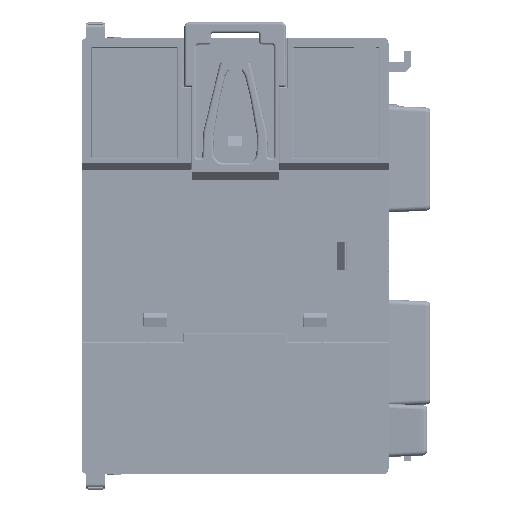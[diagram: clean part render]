
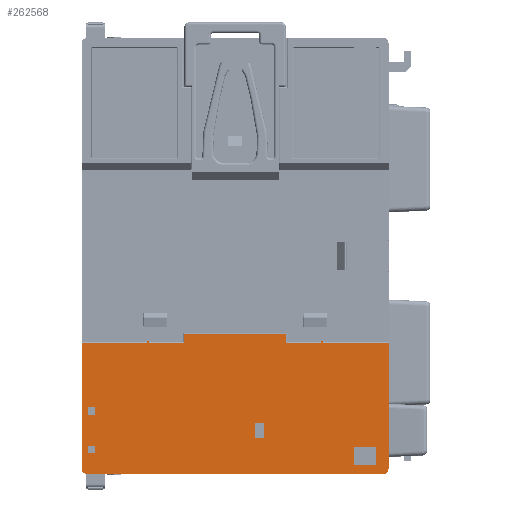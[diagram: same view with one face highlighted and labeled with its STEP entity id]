
A CAD part, front view. The second image highlights one B-rep face of the part: STEP entity #262568.
In plain terms, the highlighted planar face has unit normal (0, -1, 0).
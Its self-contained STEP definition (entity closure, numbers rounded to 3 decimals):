
#55839=DIRECTION('',(0.,0.,-1.));
#55840=VECTOR('',#55839,26.05);
#55841=CARTESIAN_POINT('',(31.65,0.,-17.95));
#55842=LINE('',#55841,#55840);
#55846=DIRECTION('',(-1.,0.,0.));
#55847=VECTOR('',#55846,61.3);
#55848=CARTESIAN_POINT('',(30.65,0.,-45.));
#55849=LINE('',#55848,#55847);
#55853=DIRECTION('',(0.,0.,1.));
#55854=VECTOR('',#55853,26.05);
#55855=CARTESIAN_POINT('',(-31.65,0.,-44.));
#55856=LINE('',#55855,#55854);
#55902=DIRECTION('',(0.,0.,1.));
#55903=VECTOR('',#55902,1.5);
#55904=CARTESIAN_POINT('',(-30.35,0.,-40.75));
#55905=LINE('',#55904,#55903);
#55909=DIRECTION('',(-1.,0.,0.));
#55910=VECTOR('',#55909,1.5);
#55911=CARTESIAN_POINT('',(-28.85,0.,-40.75));
#55912=LINE('',#55911,#55910);
#55916=DIRECTION('',(0.,0.,-1.));
#55917=VECTOR('',#55916,1.5);
#55918=CARTESIAN_POINT('',(-28.85,0.,-39.25));
#55919=LINE('',#55918,#55917);
#55923=DIRECTION('',(1.,0.,0.));
#55924=VECTOR('',#55923,1.5);
#55925=CARTESIAN_POINT('',(-30.35,0.,-39.25));
#55926=LINE('',#55925,#55924);
#55930=DIRECTION('',(0.,0.,1.));
#55931=VECTOR('',#55930,1.5);
#55932=CARTESIAN_POINT('',(-30.35,0.,-32.75));
#55933=LINE('',#55932,#55931);
#55937=DIRECTION('',(-1.,0.,0.));
#55938=VECTOR('',#55937,1.5);
#55939=CARTESIAN_POINT('',(-28.85,0.,-32.75));
#55940=LINE('',#55939,#55938);
#55944=DIRECTION('',(0.,0.,-1.));
#55945=VECTOR('',#55944,1.5);
#55946=CARTESIAN_POINT('',(-28.85,0.,-31.25));
#55947=LINE('',#55946,#55945);
#55951=DIRECTION('',(1.,0.,0.));
#55952=VECTOR('',#55951,1.5);
#55953=CARTESIAN_POINT('',(-30.35,0.,-31.25));
#55954=LINE('',#55953,#55952);
#55958=DIRECTION('',(0.,0.,1.));
#55959=VECTOR('',#55958,3.7);
#55960=CARTESIAN_POINT('',(29.1,0.,-43.2));
#55961=LINE('',#55960,#55959);
#55965=DIRECTION('',(-1.,0.,0.));
#55966=VECTOR('',#55965,4.6);
#55967=CARTESIAN_POINT('',(29.1,0.,-39.5));
#55968=LINE('',#55967,#55966);
#55972=DIRECTION('',(0.,0.,-1.));
#55973=VECTOR('',#55972,3.7);
#55974=CARTESIAN_POINT('',(24.5,0.,-39.5));
#55975=LINE('',#55974,#55973);
#55979=DIRECTION('',(1.,0.,0.));
#55980=VECTOR('',#55979,4.6);
#55981=CARTESIAN_POINT('',(24.5,0.,-43.2));
#55982=LINE('',#55981,#55980);
#55993=DIRECTION('',(0.,0.,1.));
#55994=VECTOR('',#55993,3.);
#55995=CARTESIAN_POINT('',(4.,0.,-37.5));
#55996=LINE('',#55995,#55994);
#56000=DIRECTION('',(-1.,0.,0.));
#56001=VECTOR('',#56000,2.);
#56002=CARTESIAN_POINT('',(6.,0.,-37.5));
#56003=LINE('',#56002,#56001);
#56007=DIRECTION('',(0.,0.,-1.));
#56008=VECTOR('',#56007,3.);
#56009=CARTESIAN_POINT('',(6.,0.,-34.5));
#56010=LINE('',#56009,#56008);
#56014=DIRECTION('',(1.,0.,0.));
#56015=VECTOR('',#56014,2.);
#56016=CARTESIAN_POINT('',(4.,0.,-34.5));
#56017=LINE('',#56016,#56015);
#56021=DIRECTION('',(-1.,0.,0.));
#56022=VECTOR('',#56021,7.3);
#56023=CARTESIAN_POINT('',(17.85,0.,-17.95));
#56024=LINE('',#56023,#56022);
#56046=DIRECTION('',(0.,0.,1.));
#56047=VECTOR('',#56046,1.95);
#56048=CARTESIAN_POINT('',(10.55,0.,-17.95));
#56049=LINE('',#56048,#56047);
#56078=DIRECTION('',(-1.,0.,0.));
#56079=VECTOR('',#56078,21.1);
#56080=CARTESIAN_POINT('',(10.55,0.,-16.));
#56081=LINE('',#56080,#56079);
#56108=DIRECTION('',(0.,0.,-1.));
#56109=VECTOR('',#56108,1.95);
#56110=CARTESIAN_POINT('',(-10.55,0.,-16.));
#56111=LINE('',#56110,#56109);
#56147=DIRECTION('',(-1.,0.,0.));
#56148=VECTOR('',#56147,7.3);
#56149=CARTESIAN_POINT('',(-10.55,0.,-17.95));
#56150=LINE('',#56149,#56148);
#56246=DIRECTION('',(-1.,0.,0.));
#56247=VECTOR('',#56246,13.5);
#56248=CARTESIAN_POINT('',(-18.15,0.,-17.95));
#56249=LINE('',#56248,#56247);
#56261=CARTESIAN_POINT('',(-18.,0.,-17.75));
#56262=DIRECTION('',(0.,-1.,0.));
#56263=DIRECTION('',(0.6,0.,-0.8));
#56264=AXIS2_PLACEMENT_3D('',#56261,#56262,#56263);
#61671=CARTESIAN_POINT('',(30.65,0.,-44.));
#61672=DIRECTION('',(0.,-1.,0.));
#61673=DIRECTION('',(0.,0.,-1.));
#61674=AXIS2_PLACEMENT_3D('',#61671,#61672,#61673);
#61989=DIRECTION('',(-1.,0.,0.));
#61990=VECTOR('',#61989,13.5);
#61991=CARTESIAN_POINT('',(31.65,0.,-17.95));
#61992=LINE('',#61991,#61990);
#62007=CARTESIAN_POINT('',(18.,0.,-17.75));
#62008=DIRECTION('',(0.,-1.,0.));
#62009=DIRECTION('',(0.6,0.,-0.8));
#62010=AXIS2_PLACEMENT_3D('',#62007,#62008,#62009);
#63796=CARTESIAN_POINT('',(-30.65,0.,-44.));
#63797=DIRECTION('',(0.,-1.,0.));
#63798=DIRECTION('',(-1.,0.,0.));
#63799=AXIS2_PLACEMENT_3D('',#63796,#63797,#63798);
#190084=CARTESIAN_POINT('',(30.65,0.,-45.));
#190085=CARTESIAN_POINT('',(31.65,0.,-44.));
#190086=VERTEX_POINT('',#190084);
#190087=VERTEX_POINT('',#190085);
#190088=CARTESIAN_POINT('',(-31.65,0.,-44.));
#190089=CARTESIAN_POINT('',(-30.65,0.,-45.));
#190090=VERTEX_POINT('',#190088);
#190091=VERTEX_POINT('',#190089);
#190216=CARTESIAN_POINT('',(17.85,0.,-17.95));
#190217=CARTESIAN_POINT('',(10.55,0.,-17.95));
#190218=VERTEX_POINT('',#190216);
#190219=VERTEX_POINT('',#190217);
#190224=CARTESIAN_POINT('',(10.55,0.,-16.));
#190225=VERTEX_POINT('',#190224);
#190238=CARTESIAN_POINT('',(-10.55,0.,-16.));
#190239=VERTEX_POINT('',#190238);
#190240=CARTESIAN_POINT('',(-10.55,0.,-17.95));
#190241=VERTEX_POINT('',#190240);
#190246=CARTESIAN_POINT('',(-17.85,0.,-17.95));
#190247=VERTEX_POINT('',#190246);
#190268=CARTESIAN_POINT('',(-18.15,0.,-17.95));
#190269=CARTESIAN_POINT('',(-31.65,0.,-17.95));
#190270=VERTEX_POINT('',#190268);
#190271=VERTEX_POINT('',#190269);
#190276=CARTESIAN_POINT('',(31.65,0.,-17.95));
#190277=VERTEX_POINT('',#190276);
#190278=CARTESIAN_POINT('',(18.15,0.,-17.95));
#190279=VERTEX_POINT('',#190278);
#190521=CARTESIAN_POINT('',(-30.35,0.,-40.75));
#190522=CARTESIAN_POINT('',(-30.35,0.,-39.25));
#190523=VERTEX_POINT('',#190521);
#190524=VERTEX_POINT('',#190522);
#190525=CARTESIAN_POINT('',(-28.85,0.,-39.25));
#190526=VERTEX_POINT('',#190525);
#190527=CARTESIAN_POINT('',(-28.85,0.,-40.75));
#190528=VERTEX_POINT('',#190527);
#190529=CARTESIAN_POINT('',(-30.35,0.,-32.75));
#190530=CARTESIAN_POINT('',(-30.35,0.,-31.25));
#190531=VERTEX_POINT('',#190529);
#190532=VERTEX_POINT('',#190530);
#190533=CARTESIAN_POINT('',(-28.85,0.,-31.25));
#190534=VERTEX_POINT('',#190533);
#190535=CARTESIAN_POINT('',(-28.85,0.,-32.75));
#190536=VERTEX_POINT('',#190535);
#190549=CARTESIAN_POINT('',(24.5,0.,-43.2));
#190550=CARTESIAN_POINT('',(29.1,0.,-43.2));
#190551=VERTEX_POINT('',#190549);
#190552=VERTEX_POINT('',#190550);
#190555=CARTESIAN_POINT('',(4.,0.,-37.5));
#190556=CARTESIAN_POINT('',(4.,0.,-34.5));
#190557=VERTEX_POINT('',#190555);
#190558=VERTEX_POINT('',#190556);
#190559=CARTESIAN_POINT('',(6.,0.,-34.5));
#190560=VERTEX_POINT('',#190559);
#190561=CARTESIAN_POINT('',(6.,0.,-37.5));
#190562=VERTEX_POINT('',#190561);
#191775=CARTESIAN_POINT('',(29.1,0.,-39.5));
#191776=VERTEX_POINT('',#191775);
#191777=CARTESIAN_POINT('',(24.5,0.,-39.5));
#191778=VERTEX_POINT('',#191777);
#262496=CARTESIAN_POINT('',(0.,0.,0.));
#262497=DIRECTION('',(0.,1.,0.));
#262498=DIRECTION('',(1.,0.,0.));
#262499=AXIS2_PLACEMENT_3D('',#262496,#262497,#262498);
#262500=PLANE('',#262499);
#262502=ORIENTED_EDGE('',*,*,#262501,.F.);
#262504=ORIENTED_EDGE('',*,*,#262503,.F.);
#262506=ORIENTED_EDGE('',*,*,#262505,.F.);
#262508=ORIENTED_EDGE('',*,*,#262507,.T.);
#262510=ORIENTED_EDGE('',*,*,#262509,.F.);
#262511=ORIENTED_EDGE('',*,*,#250730,.T.);
#262513=ORIENTED_EDGE('',*,*,#262512,.F.);
#262514=ORIENTED_EDGE('',*,*,#261717,.T.);
#262516=ORIENTED_EDGE('',*,*,#262515,.F.);
#262518=ORIENTED_EDGE('',*,*,#262517,.F.);
#262520=ORIENTED_EDGE('',*,*,#262519,.F.);
#262522=ORIENTED_EDGE('',*,*,#262521,.F.);
#262524=ORIENTED_EDGE('',*,*,#262523,.F.);
#262526=ORIENTED_EDGE('',*,*,#262525,.F.);
#262527=EDGE_LOOP('',(#262502,#262504,#262506,#262508,#262510,#262511,#262513,
#262514,#262516,#262518,#262520,#262522,#262524,#262526));
#262528=FACE_OUTER_BOUND('',#262527,.F.);
#262529=ORIENTED_EDGE('',*,*,#262485,.F.);
#262531=ORIENTED_EDGE('',*,*,#262530,.F.);
#262533=ORIENTED_EDGE('',*,*,#262532,.F.);
#262535=ORIENTED_EDGE('',*,*,#262534,.F.);
#262536=EDGE_LOOP('',(#262529,#262531,#262533,#262535));
#262537=FACE_BOUND('',#262536,.F.);
#262539=ORIENTED_EDGE('',*,*,#262538,.F.);
#262541=ORIENTED_EDGE('',*,*,#262540,.F.);
#262543=ORIENTED_EDGE('',*,*,#262542,.F.);
#262545=ORIENTED_EDGE('',*,*,#262544,.F.);
#262546=EDGE_LOOP('',(#262539,#262541,#262543,#262545));
#262547=FACE_BOUND('',#262546,.F.);
#262549=ORIENTED_EDGE('',*,*,#262548,.T.);
#262551=ORIENTED_EDGE('',*,*,#262550,.T.);
#262553=ORIENTED_EDGE('',*,*,#262552,.T.);
#262555=ORIENTED_EDGE('',*,*,#262554,.T.);
#262556=EDGE_LOOP('',(#262549,#262551,#262553,#262555));
#262557=FACE_BOUND('',#262556,.F.);
#262559=ORIENTED_EDGE('',*,*,#262558,.F.);
#262561=ORIENTED_EDGE('',*,*,#262560,.F.);
#262563=ORIENTED_EDGE('',*,*,#262562,.F.);
#262565=ORIENTED_EDGE('',*,*,#262564,.F.);
#262566=EDGE_LOOP('',(#262559,#262561,#262563,#262565));
#262567=FACE_BOUND('',#262566,.F.);
#262568=ADVANCED_FACE('',(#262528,#262537,#262547,#262557,#262567),#262500,.F.);
#56265=CIRCLE('',#56264,0.25);
#61675=CIRCLE('',#61674,1.);
#62011=CIRCLE('',#62010,0.25);
#63800=CIRCLE('',#63799,1.);
#250730=EDGE_CURVE('',#190086,#190091,#55849,.T.);
#261717=EDGE_CURVE('',#190090,#190271,#55856,.T.);
#262485=EDGE_CURVE('',#190523,#190524,#55905,.T.);
#262501=EDGE_CURVE('',#190218,#190219,#56024,.T.);
#262503=EDGE_CURVE('',#190279,#190218,#62011,.T.);
#262505=EDGE_CURVE('',#190277,#190279,#61992,.T.);
#262507=EDGE_CURVE('',#190277,#190087,#55842,.T.);
#262509=EDGE_CURVE('',#190086,#190087,#61675,.T.);
#262512=EDGE_CURVE('',#190090,#190091,#63800,.T.);
#262515=EDGE_CURVE('',#190270,#190271,#56249,.T.);
#262517=EDGE_CURVE('',#190247,#190270,#56265,.T.);
#262519=EDGE_CURVE('',#190241,#190247,#56150,.T.);
#262521=EDGE_CURVE('',#190239,#190241,#56111,.T.);
#262523=EDGE_CURVE('',#190225,#190239,#56081,.T.);
#262525=EDGE_CURVE('',#190219,#190225,#56049,.T.);
#262530=EDGE_CURVE('',#190528,#190523,#55912,.T.);
#262532=EDGE_CURVE('',#190526,#190528,#55919,.T.);
#262534=EDGE_CURVE('',#190524,#190526,#55926,.T.);
#262538=EDGE_CURVE('',#190531,#190532,#55933,.T.);
#262540=EDGE_CURVE('',#190536,#190531,#55940,.T.);
#262542=EDGE_CURVE('',#190534,#190536,#55947,.T.);
#262544=EDGE_CURVE('',#190532,#190534,#55954,.T.);
#262548=EDGE_CURVE('',#190552,#191776,#55961,.T.);
#262550=EDGE_CURVE('',#191776,#191778,#55968,.T.);
#262552=EDGE_CURVE('',#191778,#190551,#55975,.T.);
#262554=EDGE_CURVE('',#190551,#190552,#55982,.T.);
#262558=EDGE_CURVE('',#190557,#190558,#55996,.T.);
#262560=EDGE_CURVE('',#190562,#190557,#56003,.T.);
#262562=EDGE_CURVE('',#190560,#190562,#56010,.T.);
#262564=EDGE_CURVE('',#190558,#190560,#56017,.T.);
